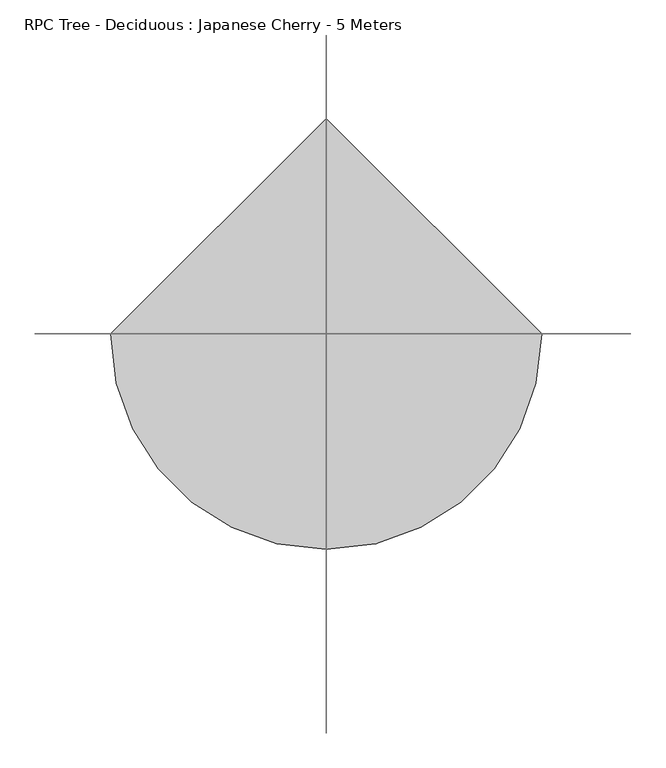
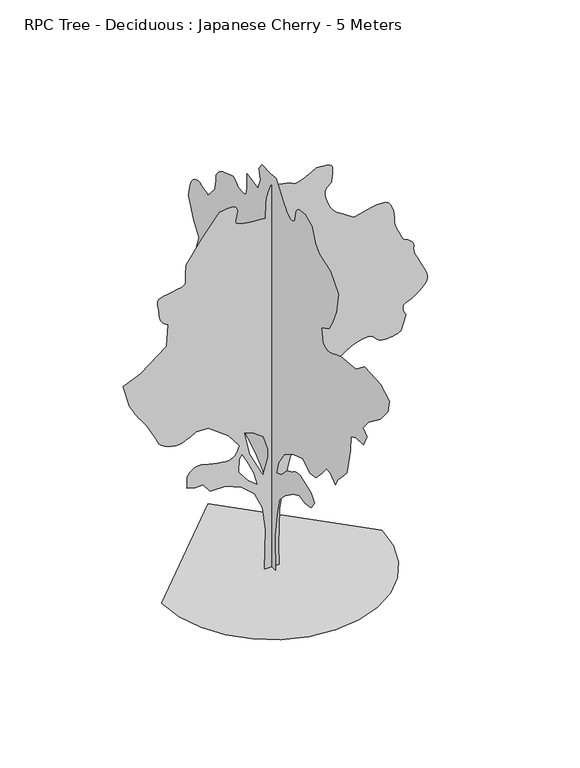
"""IFC4 building model written with IfcOpenShell, lengths in millimetres: geographic element geometry, RPC Tree - Deciduous : Japanese Cherry - 5 Meters."""

from ifc_helpers import new_model, si_unit, origin, place, context, project, spatial, triangles, source, transform, mapped, element, save


def rpc_tree_deciduous_japanese_cherry_5_meters_cd988bd5(model_context):
    return source(origin(), model_context, "Body", "Tessellation", [
        triangles([(-0.0030652, 82.8583963, 0.0065111), (-0.0030652, -80.1047853, 0.0065111), (-0.0030652, -65.2900509, 437.0420008), (-0.0030652, -109.734254, 725.931126), (-0.0030652, -161.5862489, 948.1535357), (-0.0030652, -280.1057769, 1074.0786255), (-0.0030652, -457.8809177, 1200.0065495), (-0.0030652, -576.400464, 1251.8565823), (-0.0030652, -694.9200102, 1229.6342468), (-0.0030652, -820.8451, 1251.8565823), (-0.0030652, -887.5118156, 1348.1539021), (-0.0030652, -820.8451, 1437.0428078), (-0.0030652, -583.8088054, 1518.5234447), (-0.0030652, -563.2059932, 1516.8623543), (-0.0030652, -542.7976459, 1514.745623), (-0.0030652, -522.7781919, 1511.7206623), (-0.0030652, -503.34206, 1507.3373543), (-0.0030652, -484.6837149, 1501.1400581), (-0.0030652, -466.9948236, 1492.6734238), (-0.0030652, -450.4753741, 1481.4873333), (-0.0030652, -433.9531268, 1469.4373421), (-0.0030652, -416.2669971, 1458.5512333), (-0.0030652, -397.6086519, 1448.640065), (-0.0030652, -378.17252, 1439.5039948), (-0.0030652, -358.1530661, 1430.9539352), (-0.0030652, -337.7447187, 1422.790044), (-0.0030652, -317.1419065, 1414.8206177), (-0.0030652, -206.0304474, 1296.3011078), (-0.0030652, -94.9195242, 1251.8565823), (-0.0030652, -139.3640043, 1407.4122036), (-0.0030652, -265.2896573, 1592.5984291), (-0.0030652, -443.0670327, 1703.7096703), (-0.0030652, -650.4754847, 1770.3763859), (-0.0030652, -798.6228373, 1674.0790661), (-0.0030652, -917.1424198, 1688.8957489), (-0.0030652, -1043.0675097, 1822.2264187), (-0.0030652, -1139.3648294, 1940.7459286), (-0.0030652, -1228.2510464, 1933.3376598), (-0.0030652, -1324.5482208, 1844.4515156), (-0.0030652, -1383.8066677, 1948.1543427), (-0.0030652, -1450.4733833, 2022.2265656), (-0.0030652, -1568.9928932, 2148.1544895), (-0.0030652, -1643.0652615, 2481.4880676), (-0.0030652, -1650.4735302, 2659.2658791), (-0.0030652, -1754.1791187, 2703.7076431), (-0.0030652, -1917.1403927, 2718.5244713), (-0.0030652, -1983.8071083, 2859.2522186), (-0.0030652, -1902.3264713, 2925.9190796), (-0.0030652, -2013.4377125, 3059.2525108), (-0.0030652, -2265.2878922, 3251.8637192), (-0.0030652, -2428.2519276, 3444.4473129), (-0.0030652, -2457.8796249, 3600.0029343), (-0.0030652, -2272.6963062, 3703.697477), (-0.0030652, -1931.954314, 3718.5308739), (-0.0030652, -1761.5847713, 3585.1974426), (-0.0030652, -1435.659462, 3548.1418556), (-0.0030652, -1391.3871643, 3530.780706), (-0.0030652, -1348.1539021, 3514.002951), (-0.0030652, -1306.9899902, 3498.3916946), (-0.0030652, -1268.9398418, 3484.5306221), (-0.0030652, -1235.0343533, 3473.0028374), (-0.0030652, -1206.3120512, 3464.3917351), (-0.0030652, -1183.8065208, 3459.2528046), (-0.0030652, -1163.6592768, 3458.9749146), (-0.0030652, -1142.3425547, 3463.3638908), (-0.0030652, -1121.4175964, 3470.7250694), (-0.0030652, -1102.4342348, 3479.3916916), (-0.0030652, -1086.9508776, 3487.669384), (-0.0030652, -1076.5203369, 3493.8637733), (-0.0030652, -1072.6952797, 3496.3083916), (-0.0030652, -1035.6591682, 3674.086203), (-0.0030652, -1191.2148623, 3755.5585556), (-0.0030652, -1265.2899193, 3874.0864952), (-0.0030652, -1346.7705563, 4066.6697983), (-0.0030652, -1391.2149364, 4311.1144707), (-0.0030652, -1220.8453938, 4503.6980644), (-0.0030652, -998.6230568, 4585.1980316), (-0.0030652, -909.7340784, 4666.6703842), (-0.0030652, -843.0673628, 4844.4481956), (-0.0030652, -687.5116688, 4903.6983582), (-0.0030652, -662.1783314, 4903.5873184), (-0.0030652, -637.2366125, 4902.8373642), (-0.0030652, -613.069919, 4900.7816757), (-0.0030652, -590.0699058, 4896.8092438), (-0.0030652, -568.6254662, 4890.1986008), (-0.0030652, -549.1254573, 4880.392804), (-0.0030652, -531.9559748, 4866.6706764), (-0.0030652, -518.0254297, 4849.5039917), (-0.0030652, -507.5948527, 4830.0037285), (-0.0030652, -500.0809582, 4808.5593979), (-0.0030652, -494.8976263, 4785.5593483), (-0.0030652, -491.4642966, 4761.3928001), (-0.0030652, -489.1948494, 4736.4481018), (-0.0030652, -487.5114856, 4711.1147644), (-0.0030652, -474.7281452, 4697.0037071), (-0.0030652, -461.4225984, 4684.0036285), (-0.0030652, -447.0836843, 4673.2260887), (-0.0030652, -431.189233, 4665.7259651), (-0.0030652, -413.2225608, 4662.6427231), (-0.0030652, -392.6614248, 4665.0591454), (-0.0030652, -368.9919757, 4674.0870827), (-0.0030652, -345.5391558, 4687.198201), (-0.0030652, -325.5863766, 4701.1147934), (-0.0030652, -308.547482, 4715.6703003), (-0.0030652, -293.839132, 4730.7536819), (-0.0030652, -280.8807841, 4746.1983788), (-0.0030652, -269.0904973, 4761.9203842), (-0.0030652, -257.8821516, 4777.7816254), (-0.0030652, -154.1787432, 4918.5317551), (-0.0030652, -87.5120185, 5000.0041077), (-0.0030652, 23.5992409, 4992.5871185), (-0.0030652, 201.3768252, 5000.0041077), (-0.0030652, 268.0432683, 4911.1147659), (-0.0030652, 238.4138087, 4785.1983238), (-0.0030652, 290.2668936, 4644.4481941), (-0.0030652, 519.894865, 4688.8925743), (-0.0030652, 519.894865, 4525.9202545), (-0.0030652, 521.6004295, 4500.6979568), (-0.0030652, 524.0198676, 4476.3369438), (-0.0030652, 527.8643277, 4453.8092491), (-0.0030652, 533.8476471, 4434.0313866), (-0.0030652, 542.6782127, 4417.8367355), (-0.0030652, 555.0754575, 4406.1979111), (-0.0030652, 571.7476956, 4400.0035217), (-0.0030652, 590.7949342, 4397.6978485), (-0.0030652, 609.8421364, 4396.9478943), (-0.0030652, 628.8893749, 4397.475769), (-0.0030652, 647.9366135, 4399.0591026), (-0.0030652, 666.983852, 4401.4202957), (-0.0030652, 686.033852, 4404.2811676), (-0.0030652, 705.0810905, 4407.4202202), (-0.0030652, 722.5505911, 4424.6979446), (-0.0030652, 740.08673, 4441.03125), (-0.0030652, 757.7533842, 4455.4201973), (-0.0030652, 775.6117418, 4466.8924622), (-0.0030652, 793.7312027, 4474.4757202), (-0.0030652, 812.1756437, 4477.1979378), (-0.0030652, 831.0062531, 4474.0867905), (-0.0030652, 1031.0063999, 4407.4202202), (-0.0030652, 1059.3841736, 4388.3091774), (-0.0030652, 1086.5953033, 4368.8089142), (-0.0030652, 1111.4731453, 4348.5313728), (-0.0030652, 1132.8536716, 4327.0867516), (-0.0030652, 1149.5676224, 4304.086702), (-0.0030652, 1160.450897, 4279.1422943), (-0.0030652, 1164.3398312, 4251.8645988), (-0.0030652, 1165.2037319, 4223.9200836), (-0.0030652, 1167.6231337, 4197.1699722), (-0.0030652, 1171.3370785, 4171.3921852), (-0.0030652, 1176.0870792, 4146.3922577), (-0.0030652, 1181.6148668, 4121.9478195), (-0.0030652, 1187.6620268, 4097.9199257), (-0.0030652, 1193.9676012, 4074.0864967), (-0.0030652, 1334.7093739, 3918.5308754), (-0.0030652, 1377.5122845, 3937.2808937), (-0.0030652, 1419.992831, 3954.3641533), (-0.0030652, 1461.8234173, 3968.0865715), (-0.0030652, 1502.6818245, 3976.7531937), (-0.0030652, 1542.2456886, 3978.6699371), (-0.0030652, 1580.1901749, 3972.1697525), (-0.0030652, 1616.1901577, 3955.5588478), (-0.0030652, 1647.4401398, 3929.8921005), (-0.0030652, 1672.0819496, 3897.975444), (-0.0030652, 1691.2152294, 3860.8919518), (-0.0030652, 1705.9429642, 3819.6697586), (-0.0030652, 1717.3679935, 3775.3364182), (-0.0030652, 1726.5902504, 3728.9197746), (-0.0030652, 1734.7096676, 3681.4752869), (-0.0030652, 1638.4124931, 3429.6415306), (-0.0030652, 1519.8955994, 3266.6692108), (-0.0030652, 1616.1901577, 3000.0023483), (-0.0030652, 1527.301252, 2859.2522186), (-0.0030652, 1491.0206177, 2846.4745102), (-0.0030652, 1456.1012375, 2833.168927), (-0.0030652, 1423.9011681, 2818.8354996), (-0.0030652, 1395.7816635, 2802.9466438), (-0.0030652, 1373.1065941, 2784.974485), (-0.0030652, 1357.2344524, 2764.4161469), (-0.0030652, 1349.5232952, 2740.7466614), (-0.0030652, 1346.998304, 2715.5659309), (-0.0030652, 1345.6371952, 2690.7715141), (-0.0030652, 1345.2482655, 2666.3049843), (-0.0030652, 1345.6371952, 2642.0965782), (-0.0030652, 1346.6093742, 2618.0797302), (-0.0030652, 1347.970483, 2594.196595), (-0.0030652, 1349.5232952, 2570.3742119), (-0.0030652, 1319.8954525, 2451.8576088), (-0.0030652, 1112.4870369, 2474.0797989), (-0.0030652, 1095.2536411, 2439.3104095), (-0.0030652, 1079.3814268, 2405.4463428), (-0.0030652, 1066.2285959, 2373.3991711), (-0.0030652, 1057.159164, 2344.07131), (-0.0030652, 1053.5314058, 2318.3740414), (-0.0030652, 1056.7064301, 2297.2074554), (-0.0030652, 1068.0425114, 2281.4879208), (-0.0030652, 1086.420314, 2268.4435135), (-0.0030652, 1108.9453199, 2255.1406918), (-0.0030652, 1134.3203699, 2242.2267998), (-0.0030652, 1161.2509209, 2230.3490364), (-0.0030652, 1188.4398136, 2220.1546005), (-0.0030652, 1214.5926504, 2212.2934525), (-0.0030652, 1238.4120541, 2207.4129364), (-0.0030652, 1259.9871906, 2203.1573822), (-0.0030652, 1280.3955379, 2196.9600861), (-0.0030652, 1299.8315609, 2189.143412), (-0.0030652, 1318.490015, 2180.0295788), (-0.0030652, 1336.5676907, 2169.9434212), (-0.0030652, 1354.2538204, 2159.2100647), (-0.0030652, 1371.7454853, 2148.1544895), (-0.0030652, 1542.1179348, 2237.0433952), (-0.0030652, 1591.0957592, 2249.5462658), (-0.0030652, 1638.7152363, 2260.8851086), (-0.0030652, 1683.6124958, 2269.8906635), (-0.0030652, 1724.4291904, 2275.3962868), (-0.0030652, 1759.8042114, 2276.2379505), (-0.0030652, 1788.37645, 2271.2517723), (-0.0030652, 1808.7820358, 2259.2657307), (-0.0030652, 1822.2820839, 2241.8795826), (-0.0030652, 1831.5014339, 2221.7739784), (-0.0030652, 1837.1598095, 2199.4017975), (-0.0030652, 1839.9680683, 2175.212867), (-0.0030652, 1840.6376495, 2149.6655891), (-0.0030652, 1839.8820271, 2123.2100819), (-0.0030652, 1838.41264, 2096.3016953), (-0.0030652, 1812.9514034, 2069.5432995), (-0.0030652, 1787.1013824, 2044.1489193), (-0.0030652, 1760.4736473, 2021.4710884), (-0.0030652, 1732.6791229, 2002.8765839), (-0.0030652, 1703.3291702, 1989.7266598), (-0.0030652, 1672.0374756, 1983.3766113), (-0.0030652, 1638.4124931, 1985.1904541), (-0.0030652, 1602.8012947, 1993.0071281), (-0.0030652, 1566.6706512, 2002.3821373), (-0.0030652, 1531.3178673, 2011.23494), (-0.0030652, 1498.040102, 2017.4988018), (-0.0030652, 1468.1289917, 2019.096088), (-0.0030652, 1442.884457, 2013.9571575), (-0.0030652, 1423.5984249, 2000.0043755), (-0.0030652, 1409.0205357, 1982.0377396), (-0.0030652, 1396.7760796, 1966.0127003), (-0.0030652, 1386.4733654, 1951.6099457), (-0.0030652, 1377.728841, 1938.5015888), (-0.0030652, 1370.1483444, 1926.3626495), (-0.0030652, 1363.345562, 1914.8738159), (-0.0030652, 1356.9317093, 1903.7098171), (-0.0030652, 1382.1760986, 1900.3626377), (-0.0030652, 1406.51502, 1895.9793297), (-0.0030652, 1429.0400986, 1889.521003), (-0.0030652, 1448.8428143, 1879.9542904), (-0.0030652, 1465.0178444, 1866.2404472), (-0.0030652, 1476.6595757, 1847.3431995), (-0.0030652, 1482.8567265, 1822.2264187), (-0.0030652, 1485.3844791, 1792.7930408), (-0.0030652, 1486.7455879, 1761.8014732), (-0.0030652, 1487.1345177, 1729.5152172), (-0.0030652, 1486.7455879, 1696.1929779), (-0.0030652, 1485.7734089, 1662.0930244), (-0.0030652, 1484.4123001, 1627.4762421), (-0.0030652, 1482.8567265, 1592.5984291), (-0.0030652, 1444.8067234, 1564.2428925), (-0.0030652, 1407.012228, 1537.1817535), (-0.0030652, 1369.7371777, 1512.7150784), (-0.0030652, 1333.2399868, 1492.1345032), (-0.0030652, 1297.7815407, 1476.7373325), (-0.0030652, 1263.6148762, 1467.8178188), (-0.0030652, 1231.0065468, 1466.6734119), (-0.0030652, 1198.3953833, 1470.7095028), (-0.0030652, 1164.2314802, 1476.3039288), (-0.0030652, 1128.7703453, 1483.1928978), (-0.0030652, 1092.2730818, 1491.1178501), (-0.0030652, 1054.9980314, 1499.8234234), (-0.0030652, 1017.2063702, 1509.0429188), (-0.0030652, 979.153533, 1518.5234447), (-0.0030652, 756.931196, 1466.6734119), (-0.0030652, 497.6726023, 1333.3399807), (-0.0030652, 349.525286, 1251.8565823), (-0.0030652, 179.1545806, 1111.1175711), (-0.0030652, 75.4508951, 896.3035028), (-0.0030652, 45.8214264, 592.5976948), (-0.0030652, 75.4508951, 288.8946845), (87.7189553, 0.000279, 0.0), (-90.0586835, 0.000279, 0.0), (-75.2439492, 0.0002442, 503.7031935), (-112.2806465, 0.0002209, 792.5923187), (-208.5771124, 0.0002093, 999.9980455), (-364.133624, 0.0002093, 1140.7398182), (-556.7254294, 0.0001977, 1222.2204552), (-741.9089298, 0.0001977, 1222.2204552), (-830.8006697, 0.0001977, 1333.331551), (-927.0951553, 0.0001977, 1333.331551), (-1023.3924751, 0.0001977, 1355.5538864), (-1023.3924751, 0.000186, 1496.2955864), (-1004.2147213, 0.000186, 1521.4539345), (-984.259108, 0.000186, 1545.1873695), (-962.7507551, 0.0001744, 1566.0706879), (-938.9091145, 0.0001744, 1582.6789764), (-911.9562538, 0.0001744, 1593.5845608), (-881.1173658, 0.0001744, 1597.365144), (-845.614591, 0.0001744, 1592.5929062), (-803.458952, 0.0001744, 1581.9234993), (-755.0839251, 0.0001744, 1569.829034), (-703.3394817, 0.000186, 1557.606815), (-651.0782822, 0.000186, 1546.5484783), (-601.147718, 0.000186, 1537.9539448), (-556.4004493, 0.000186, 1533.1151413), (-519.6865202, 0.000186, 1533.3318432), (-490.5337212, 0.000186, 1539.9623978), (-466.044809, 0.000186, 1552.8123402), (-445.4420331, 0.0001744, 1570.8456871), (-427.9475704, 0.0001744, 1593.0235485), (-412.7892297, 0.0001744, 1618.3124119), (-399.1836648, 0.0001744, 1645.6735325), (-386.3558504, 0.0001744, 1674.0735432), (-519.6865202, 0.0001628, 1851.8514999), (-764.1311926, 0.0001512, 2029.6294567), (-912.2813066, 0.0001512, 2037.034964), (-936.1868242, 0.0001512, 2022.7822002), (-960.6757364, 0.0001512, 2008.7239014), (-986.3341267, 0.0001512, 1995.0543869), (-1013.7368872, 0.0001512, 1981.9655056), (-1043.4758423, 0.0001512, 1969.6570999), (-1076.1286457, 0.0001512, 1958.3182571), (-1112.2814535, 0.0001628, 1948.1460583), (-1153.8731735, 0.0001628, 1944.6265057), (-1200.1315418, 0.0001628, 1951.7321766), (-1247.556554, 0.0001512, 1967.3876163), (-1292.6510399, 0.0001512, 1989.5237652), (-1331.9121609, 0.0001512, 2016.0654591), (-1361.8427467, 0.0001512, 2044.9405861), (-1378.9454819, 0.0001512, 2074.0738369), (-1393.8705883, 0.0001512, 2110.3961838), (-1417.603878, 0.0001395, 2158.771138), (-1447.1677711, 0.0001395, 2214.015731), (-1479.5845425, 0.0001395, 2270.9407448), (-1511.8706532, 0.0001395, 2324.3685883), (-1541.0456165, 0.0001279, 2369.1157116), (-1564.1318527, 0.0001279, 2399.9991463), (-1583.6123497, 0.0001279, 2424.5963367), (-1603.8679447, 0.0001279, 2453.4714638), (-1624.7735001, 0.0001279, 2485.9075653), (-1646.195739, 0.0001279, 2521.1937836), (-1668.0069077, 0.0001163, 2558.6214409), (-1690.0791069, 0.0001163, 2597.4713951), (-1712.2792053, 0.0001163, 2637.0355499), (-1793.7626038, 0.0001046, 2918.5299957), (-1578.9457741, 9.3e-05, 3007.4190468), (-1267.8371475, 8.14e-05, 3251.8637192), (-1253.0204647, 5.81e-05, 3518.5026764), (-1275.092664, 5.81e-05, 3534.5304771), (-1296.2566338, 5.81e-05, 3551.3085228), (-1315.6066154, 5.81e-05, 3569.6417061), (-1332.2343796, 5.81e-05, 3590.3084679), (-1345.2344582, 5.81e-05, 3614.0860863), (-1353.7010925, 5.81e-05, 3641.7530022), (-1356.7260532, 5.81e-05, 3674.0585884), (-1359.4037968, 4.65e-05, 3710.4473557), (-1365.4483406, 4.65e-05, 3748.3918419), (-1371.8844303, 4.65e-05, 3785.8363586), (-1375.7288177, 4.65e-05, 3820.6696976), (-1374.0011616, 4.65e-05, 3850.8364609), (-1363.7205391, 4.65e-05, 3874.2530548), (-1341.9093704, 4.65e-05, 3888.8919868), (-1303.7066151, 4.65e-05, 3898.0864838), (-1251.2509506, 3.49e-05, 3907.1696503), (-1192.056526, 3.49e-05, 3916.8641167), (-1133.6398155, 3.49e-05, 3928.0308769), (-1083.5147501, 3.49e-05, 3941.3643654), (-1049.1980947, 3.49e-05, 3957.6976707), (-1038.2063965, 3.49e-05, 3977.7810379), (-1040.51752, 3.49e-05, 4001.9475861), (-1041.2730698, 3.49e-05, 4029.6142113), (-1040.7313877, 3.49e-05, 4060.1978096), (-1039.1564112, 3.49e-05, 4093.0864998), (-1036.8035751, 2.33e-05, 4127.7532791), (-1033.9313667, 2.33e-05, 4163.586557), (-1030.7980551, 2.33e-05, 4200.0032295), (-845.614591, 1.16e-05, 4466.6703827), (-630.8005228, -1.16e-05, 4733.3372452), (-585.0810388, -1.16e-05, 4740.9481178), (-541.2421085, -1.16e-05, 4746.6983482), (-501.1587267, -1.16e-05, 4748.6982262), (-466.7142448, -1.16e-05, 4745.0315895), (-439.7836939, -1.16e-05, 4733.8648293), (-422.247555, -1.16e-05, 4713.3093979), (-415.9836568, 0.0, 4681.4758759), (-419.0725671, 0.0, 4645.6146927), (-426.178129, 0.0, 4614.0038315), (-434.0614414, 0.0, 4586.448246), (-439.4809144, 0.0, 4562.614817), (-439.2003356, 0.0, 4542.2814651), (-429.9781151, 0.0, 4525.1982056), (-408.5781132, 0.0, 4511.1147629), (-376.1197383, 0.0, 4499.6980179), (-336.661391, 0.0, 4490.642466), (-291.375238, 1.16e-05, 4483.5036575), (-241.4246351, 1.16e-05, 4477.947892), (-187.9745909, 1.16e-05, 4473.5313011), (-132.1923308, 1.16e-05, 4469.8925697), (-75.2439492, 1.16e-05, 4466.6703827), (-67.8361664, 0.0, 4666.6703842), (-66.1083876, -1.16e-05, 4695.0314438), (-61.2708831, -1.16e-05, 4722.975959), (-53.8419897, -1.16e-05, 4750.6149696), (-44.3397581, -1.16e-05, 4778.0037048), (-33.2825274, -1.16e-05, 4805.1982658), (-21.1889615, -1.16e-05, 4832.2538818), (-8.5769514, -1.16e-05, 4859.253978), (41.9792009, -1.16e-05, 4849.6984566), (91.1100728, -1.16e-05, 4840.0316048), (137.3901059, -1.16e-05, 4830.1150589), (179.3943189, -1.16e-05, 4819.781678), (215.6971175, -1.16e-05, 4808.9483276), (244.8732436, -1.16e-05, 4797.4481575), (265.4971483, -1.16e-05, 4785.1704185), (292.3418941, -1.16e-05, 4781.587207), (336.0280357, -1.16e-05, 4792.7815819), (388.916995, -1.16e-05, 4813.5593834), (443.3614552, -1.16e-05, 4838.7537758), (491.7142814, -1.16e-05, 4863.1426941), (526.3309911, -2.33e-05, 4881.5874985), (539.5698632, -2.33e-05, 4888.8928665), (550.2393428, -2.33e-05, 4889.114946), (577.753252, -2.33e-05, 4888.8097321), (615.3726854, -2.33e-05, 4886.559288), (656.3616079, -2.33e-05, 4880.948584), (693.981114, -1.16e-05, 4870.531778), (721.4949869, -1.16e-05, 4853.8926773), (732.1644665, -1.16e-05, 4829.6150894), (731.7311354, -1.16e-05, 4801.4761093), (730.5227789, -1.16e-05, 4774.1149887), (728.6644621, -1.16e-05, 4747.4203972), (726.2894617, -1.16e-05, 4721.2260658), (723.5256042, -1.16e-05, 4695.4203735), (720.5005709, 0.0, 4669.8649567), (717.3477837, 0.0, 4644.4481941), (698.472773, 0.0, 4630.003727), (680.6366524, 0.0, 4614.7537857), (664.8699549, 0.0, 4597.7815659), (652.2144047, 0.0, 4578.3092079), (643.7060577, 0.0, 4555.4760086), (640.3810427, 0.0, 4528.4203926), (643.2754881, 0.0, 4496.281366), (651.3505039, 1.16e-05, 4460.6701675), (662.5366671, 1.16e-05, 4424.39244), (676.3172213, 1.16e-05, 4388.614682), (692.1671986, 1.16e-05, 4354.5312973), (709.5728222, 1.16e-05, 4323.3090752), (728.0172632, 1.16e-05, 4296.0868996), (746.9783878, 2.33e-05, 4274.0588837), (769.2645275, 2.33e-05, 4253.9479019), (797.3839594, 2.33e-05, 4231.8643661), (830.3589815, 2.33e-05, 4208.1701729), (867.2256992, 2.33e-05, 4183.19786), (907.0035038, 2.33e-05, 4157.2256081), (948.7257391, 2.33e-05, 4130.6420563), (991.4229876, 2.33e-05, 4103.6977707), (1065.711985, 2.33e-05, 4124.0311226), (1138.1231174, 2.33e-05, 4142.4756363), (1206.7759764, 2.33e-05, 4157.1421829), (1269.7954582, 2.33e-05, 4166.1977348), (1325.2955589, 2.33e-05, 4167.7255486), (1371.4039364, 2.33e-05, 4159.8644005), (1406.2372753, 2.33e-05, 4140.7254524), (1431.3316738, 2.33e-05, 4109.61427), (1450.0761692, 3.49e-05, 4069.5588661), (1463.3789909, 3.49e-05, 4024.3087212), (1472.1483685, 3.49e-05, 3977.6420929), (1477.287299, 3.49e-05, 3933.3087524), (1479.7067734, 4.65e-05, 3895.0587616), (1480.3122597, 4.65e-05, 3866.6697968), (1486.0566765, 4.65e-05, 3836.3919937), (1500.8705978, 4.65e-05, 3794.0585312), (1521.1261929, 4.65e-05, 3745.7806641), (1543.1983921, 5.81e-05, 3697.6141273), (1563.4567486, 5.81e-05, 3655.6695946), (1578.2706699, 5.81e-05, 3626.030706), (1584.0150867, 5.81e-05, 3614.8084259), (1591.7679565, 5.81e-05, 3611.7251839), (1611.5706722, 5.81e-05, 3602.808577), (1638.2430267, 5.81e-05, 3588.5861893), (1666.5985634, 5.81e-05, 3569.5582809), (1691.4541683, 5.81e-05, 3546.2527267), (1707.6291985, 5.81e-05, 3519.1974014), (1709.9402493, 6.98e-05, 3488.8916931), (1707.0458038, 6.98e-05, 3457.8915504), (1710.373653, 6.98e-05, 3427.8082123), (1718.882, 6.98e-05, 3397.7248741), (1731.5374775, 6.98e-05, 3366.7526367), (1747.3013409, 6.98e-05, 3333.947081), (1765.1403683, 8.14e-05, 3298.4193077), (1784.015379, 8.14e-05, 3259.2525124), (1805.5681332, 8.14e-05, 3216.7803955), (1829.4541752, 8.14e-05, 3172.4746696), (1851.6542736, 8.14e-05, 3127.2803352), (1868.1515224, 9.3e-05, 3082.0857101), (1874.9348293, 9.3e-05, 3037.780275), (1867.9792946, 9.3e-05, 2995.3078674), (1843.2736805, 9.3e-05, 2955.5579681), (1809.9959152, 0.0001046, 2920.9190941), (1779.3069454, 0.0001046, 2892.502224), (1750.1736946, 0.0001046, 2869.2521896), (1721.5597435, 0.0001046, 2850.1690521), (1692.4263474, 0.0001046, 2834.1967712), (1661.7402843, 0.0001046, 2820.2801788), (1628.4596123, 0.0001046, 2807.4190453), (1600.2345909, 0.0001046, 2792.5577431), (1584.0567993, 0.0001046, 2773.8022018), (1577.9234528, 0.0001046, 2751.8189507), (1579.8262436, 0.0001163, 2727.2410904), (1587.7513412, 0.0001163, 2700.7214882), (1599.6929089, 0.0001163, 2672.9077789), (1613.6456909, 0.0001163, 2644.4438187), (1554.3846279, 0.0001279, 2459.2574478), (1533.5456383, 0.0001279, 2449.8213959), (1511.473439, 0.0001279, 2440.9018822), (1486.9400528, 0.0001279, 2433.0186424), (1458.7150314, 0.0001279, 2426.690831), (1425.56502, 0.0001279, 2422.4380383), (1386.259425, 0.0001279, 2420.7741863), (1339.5705597, 0.0001279, 2422.2213364), (1297.6315498, 0.0001279, 2431.8297615), (1268.9093204, 0.0001279, 2451.0297523), (1246.6648933, 0.0001279, 2474.8937027), (1224.1620518, 0.0001279, 2498.4963318), (1194.6620356, 0.0001279, 2516.9187538), (1151.4259392, 0.0001279, 2525.2324905), (1087.7175459, 0.0001279, 2518.51604), (1014.0563444, 0.0001279, 2497.5908638), (946.4813267, 0.0001279, 2468.1130119), (886.5535166, 0.0001279, 2432.4130108), (835.8228922, 0.0001279, 2392.8296711), (795.8506227, 0.0001279, 2351.6879963), (768.1839249, 0.0001395, 2311.3267971), (754.3867292, 0.0001395, 2274.0739838), (754.0839134, 0.0001395, 2240.8794983), (764.6645176, 0.0001395, 2210.7961601), (784.3173151, 0.0001395, 2183.3045242), (811.225629, 0.0001395, 2157.887907), (843.5756893, 0.0001512, 2134.0239567), (879.5562693, 0.0001512, 2111.1961349), (917.3479305, 0.0001512, 2088.8877583), (939.3979654, 0.0001512, 2074.5044792), (960.4118717, 0.0001512, 2059.5378056), (979.3507593, 0.0001512, 2043.4072495), (995.1813337, 0.0001512, 2025.5266548), (1006.8647049, 0.0001512, 2005.3127724), (1013.3646715, 0.0001512, 1982.1822075), (1013.6452503, 0.0001512, 1955.554327), (1010.686928, 0.0001628, 1923.0959885), (1008.1174627, 0.0001628, 1883.6404026), (1005.8702162, 0.0001628, 1838.3542133), (1003.8841455, 0.0001628, 1788.4014484), (1002.0897057, 0.0001744, 1734.951368), (1000.4285425, 0.0001744, 1679.1707611), (998.8285675, 0.0001744, 1622.2207489), (960.6924505, 0.0001744, 1593.9734905), (922.2951576, 0.0001744, 1567.6707355), (883.3784924, 0.000186, 1545.2540806), (843.6840403, 0.000186, 1528.6678837), (802.956221, 0.000186, 1519.8567936), (760.9284084, 0.000186, 1520.7622616), (717.3477837, 0.000186, 1533.3318432), (673.5532911, 0.000186, 1550.0040813), (630.9227537, 0.000186, 1562.4012897), (589.2615975, 0.0001744, 1571.2346169), (548.3809896, 0.0001744, 1577.2152111), (508.08374, 0.0001744, 1581.0595985), (468.1753839, 0.0001744, 1583.479073), (428.4586584, 0.0001744, 1585.1846375), (302.5335686, 0.000186, 1503.7040005), (221.0526772, 0.0001977, 1318.517775), (139.5709411, 0.0002093, 1007.4063869), (95.1267426, 0.0002325, 703.7033403), (80.3117312, 0.0002558, 259.2591024), (-104.8734133, 9.3e-05, 1199.9981924), (-45.6142034, 8.14e-05, 1407.4066807), (-45.6142034, 6.98e-05, 1511.1095078), (-97.4656351, 5.81e-05, 1688.8874645), (-230.7987938, 5.81e-05, 1785.1847843), (-334.5030561, 5.81e-05, 1822.2208958), (-267.8363224, 6.98e-05, 1525.9261906), (-171.5395839, 6.98e-05, 1103.7036341), (-215.9840549, 6.98e-05, 1266.6648354), (-297.4669084, 5.81e-05, 1444.4427921), (-356.7252826, 4.65e-05, 1555.5540333), (-393.7614304, 4.65e-05, 1503.7040005), (-401.1697718, 5.81e-05, 1340.7399651), (-290.058567, 6.98e-05, 1199.9981924), (-1326.4622028, 0.0, 0.0050228), (-1291.3954479, -303.9363536, 0.0050228), (-1191.523201, -583.056017, 0.0050228), (-1034.8452644, -829.3562084, 0.0050228), (-829.3562084, -1034.8452644, 0.0050228), (-583.056017, -1191.523201, 0.0050228), (-303.9363536, -1291.3954479, 0.0050228), (5.8e-05, -1326.4622028, 0.0050228), (303.9363536, -1291.3954479, 0.0050228), (583.056017, -1191.523201, 0.0050228), (829.3562084, -1034.8452644, 0.0050228), (1034.8452644, -829.3562084, 0.0050228), (1191.523201, -583.056017, 0.0050228), (1291.3954479, -303.9363536, 0.0050228), (1326.4622028, 0.0001163, 0.0050228), (-0.0001739, 1326.4622028, 0.0050228)], [[38, 39, 40], [115, 116, 117], [1, 2, 3], [280, 1, 3], [279, 280, 3], [279, 3, 4], [278, 279, 4], [278, 4, 5], [186, 187, 188], [277, 278, 5], [46, 47, 48], [45, 46, 48], [277, 5, 6], [185, 186, 188], [10, 11, 12], [9, 10, 12], [9, 12, 13], [8, 9, 13], [8, 13, 14], [8, 14, 15], [8, 15, 16], [8, 16, 17], [8, 17, 18], [8, 18, 19], [8, 19, 20], [8, 20, 21], [7, 8, 21], [7, 21, 22], [7, 22, 23], [7, 23, 24], [7, 24, 25], [7, 25, 26], [6, 7, 26], [6, 26, 27], [6, 27, 28], [277, 6, 28], [277, 28, 29], [51, 52, 53], [50, 51, 53], [50, 53, 54], [50, 54, 55], [49, 50, 55], [49, 55, 56], [48, 49, 56], [48, 56, 57], [45, 48, 57], [44, 45, 57], [44, 57, 58], [44, 58, 59], [44, 59, 60], [44, 60, 61], [44, 61, 62], [44, 62, 63], [276, 277, 29], [276, 29, 30], [184, 185, 188], [183, 184, 188], [44, 63, 64], [115, 117, 118], [111, 112, 113], [111, 113, 114], [182, 183, 188], [109, 110, 111], [109, 111, 114], [108, 109, 114], [108, 114, 115], [107, 108, 115], [106, 107, 115], [105, 106, 115], [104, 105, 115], [115, 118, 119], [170, 171, 172], [170, 172, 173], [170, 173, 174], [170, 174, 175], [74, 75, 76], [74, 76, 77], [73, 74, 77], [72, 73, 77], [71, 72, 77], [258, 259, 260], [181, 182, 188], [78, 79, 80], [170, 175, 176], [103, 104, 115], [78, 80, 81], [44, 64, 65], [275, 276, 30], [275, 30, 31], [274, 275, 31], [78, 81, 82], [78, 82, 83], [78, 83, 84], [78, 84, 85], [78, 85, 86], [78, 86, 87], [78, 87, 88], [78, 88, 89], [78, 89, 90], [78, 90, 91], [78, 91, 92], [78, 92, 93], [78, 93, 94], [78, 94, 95], [78, 95, 96], [71, 77, 78], [71, 78, 96], [71, 96, 97], [71, 97, 98], [71, 98, 99], [71, 99, 100], [115, 119, 120], [180, 181, 188], [38, 40, 41], [223, 224, 225], [33, 34, 35], [33, 35, 36], [33, 36, 37], [102, 103, 115], [179, 180, 188], [44, 65, 66], [170, 176, 177], [71, 100, 101], [43, 44, 66], [42, 43, 66], [41, 42, 66], [38, 41, 66], [37, 38, 66], [33, 37, 66], [33, 66, 67], [33, 67, 68], [33, 68, 69], [33, 69, 70], [32, 33, 70], [31, 32, 70], [274, 31, 70], [273, 274, 70], [273, 70, 71], [273, 71, 101], [273, 101, 102], [273, 102, 115], [273, 115, 120], [273, 120, 121], [273, 121, 122], [273, 122, 123], [273, 123, 124], [273, 124, 125], [273, 125, 126], [273, 126, 127], [273, 127, 128], [273, 128, 129], [273, 129, 130], [273, 130, 131], [272, 273, 131], [271, 272, 131], [270, 271, 131], [269, 270, 131], [268, 269, 131], [268, 131, 132], [268, 132, 133], [268, 133, 134], [167, 168, 169], [257, 258, 260], [257, 260, 261], [256, 257, 261], [256, 261, 262], [255, 256, 262], [255, 262, 263], [254, 255, 263], [254, 263, 264], [254, 264, 265], [254, 265, 266], [254, 266, 267], [254, 267, 268], [253, 254, 268], [252, 253, 268], [251, 252, 268], [250, 251, 268], [249, 250, 268], [248, 249, 268], [247, 248, 268], [246, 247, 268], [245, 246, 268], [166, 167, 169], [165, 166, 169], [164, 165, 169], [163, 164, 169], [162, 163, 169], [161, 162, 169], [160, 161, 169], [159, 160, 169], [158, 159, 169], [157, 158, 169], [156, 157, 169], [155, 156, 169], [154, 155, 169], [154, 169, 170], [154, 170, 177], [153, 154, 177], [153, 177, 178], [153, 178, 179], [153, 179, 188], [222, 223, 225], [222, 225, 226], [221, 222, 226], [220, 221, 226], [219, 220, 226], [218, 219, 226], [217, 218, 226], [216, 217, 226], [215, 216, 226], [214, 215, 226], [213, 214, 226], [212, 213, 226], [212, 226, 227], [212, 227, 228], [212, 228, 229], [212, 229, 230], [212, 230, 231], [211, 212, 231], [211, 231, 232], [211, 232, 233], [210, 211, 233], [209, 210, 233], [209, 233, 234], [209, 234, 235], [209, 235, 236], [209, 236, 237], [209, 237, 238], [209, 238, 239], [209, 239, 240], [208, 209, 240], [208, 240, 241], [207, 208, 241], [206, 207, 241], [206, 241, 242], [205, 206, 242], [204, 205, 242], [204, 242, 243], [203, 204, 243], [202, 203, 243], [202, 243, 244], [201, 202, 244], [201, 244, 245], [201, 245, 268], [200, 201, 268], [199, 200, 268], [198, 199, 268], [197, 198, 268], [196, 197, 268], [195, 196, 268], [194, 195, 268], [153, 188, 189], [153, 189, 190], [152, 153, 190], [152, 190, 191], [151, 152, 191], [136, 137, 138], [135, 136, 138], [135, 138, 139], [134, 135, 139], [134, 139, 140], [134, 140, 141], [134, 141, 142], [134, 142, 143], [134, 143, 144], [134, 144, 145], [134, 145, 146], [134, 146, 147], [134, 147, 148], [134, 148, 149], [134, 149, 150], [134, 150, 151], [134, 151, 191], [134, 191, 192], [134, 192, 193], [268, 134, 193], [194, 268, 193], [583, 580, 581], [574, 281, 575], [580, 583, 584], [573, 574, 575], [583, 581, 575], [580, 584, 585], [572, 573, 575], [582, 583, 575], [582, 575, 281], [571, 572, 575], [571, 575, 576], [281, 282, 283], [570, 571, 576], [570, 576, 577], [344, 345, 346], [290, 291, 292], [406, 407, 408], [570, 577, 578], [290, 292, 293], [289, 290, 293], [289, 293, 294], [289, 294, 295], [289, 295, 296], [289, 296, 297], [289, 297, 298], [289, 298, 299], [289, 299, 300], [289, 300, 301], [289, 301, 302], [289, 302, 303], [288, 289, 303], [287, 288, 303], [287, 303, 304], [287, 304, 305], [287, 305, 306], [286, 287, 306], [286, 306, 307], [286, 307, 308], [286, 308, 309], [569, 570, 578], [554, 555, 556], [405, 406, 408], [343, 344, 346], [512, 513, 514], [511, 512, 514], [511, 514, 515], [511, 515, 516], [511, 516, 517], [510, 511, 517], [510, 517, 518], [510, 518, 519], [510, 519, 520], [510, 520, 521], [510, 521, 522], [510, 522, 523], [510, 523, 524], [509, 510, 524], [509, 524, 525], [508, 509, 525], [434, 435, 436], [342, 343, 346], [507, 508, 525], [507, 525, 526], [405, 408, 409], [404, 405, 409], [403, 404, 409], [403, 409, 410], [402, 403, 410], [401, 402, 410], [400, 401, 410], [400, 410, 411], [399, 400, 411], [399, 411, 412], [399, 412, 413], [399, 413, 414], [399, 414, 415], [377, 378, 379], [341, 342, 346], [341, 346, 347], [340, 341, 347], [339, 340, 347], [338, 339, 347], [337, 338, 347], [336, 337, 347], [335, 336, 347], [334, 335, 347], [333, 334, 347], [377, 379, 380], [377, 380, 381], [377, 381, 382], [377, 382, 383], [377, 383, 384], [377, 384, 385], [377, 385, 386], [377, 386, 387], [377, 387, 388], [377, 388, 389], [377, 389, 390], [377, 390, 391], [376, 377, 391], [376, 391, 392], [375, 376, 392], [374, 375, 392], [373, 374, 392], [372, 373, 392], [372, 392, 393], [371, 372, 393], [370, 371, 393], [369, 370, 393], [369, 393, 394], [369, 394, 395], [369, 395, 396], [332, 333, 347], [369, 396, 397], [426, 427, 428], [426, 428, 429], [425, 426, 429], [425, 429, 430], [424, 425, 430], [424, 430, 431], [423, 424, 431], [423, 431, 432], [422, 423, 432], [422, 432, 433], [421, 422, 433], [420, 421, 433], [419, 420, 433], [418, 419, 433], [418, 433, 434], [418, 434, 436], [418, 436, 437], [418, 437, 438], [418, 438, 439], [417, 418, 439], [417, 439, 440], [416, 417, 440], [416, 440, 441], [415, 416, 441], [399, 415, 441], [399, 441, 442], [399, 442, 443], [399, 443, 444], [399, 444, 445], [399, 445, 446], [399, 446, 447], [399, 447, 448], [399, 448, 449], [369, 397, 398], [331, 332, 347], [368, 369, 398], [360, 361, 362], [359, 360, 362], [359, 362, 363], [358, 359, 363], [358, 363, 364], [357, 358, 364], [357, 364, 365], [356, 357, 365], [355, 356, 365], [355, 365, 366], [354, 355, 366], [353, 354, 366], [352, 353, 366], [351, 352, 366], [350, 351, 366], [349, 350, 366], [348, 349, 366], [348, 366, 367], [348, 367, 368], [348, 368, 398], [347, 348, 398], [347, 398, 399], [347, 399, 449], [347, 449, 450], [347, 450, 451], [347, 451, 452], [331, 347, 452], [331, 452, 453], [331, 453, 454], [331, 454, 455], [331, 455, 456], [330, 331, 456], [329, 330, 456], [328, 329, 456], [327, 328, 456], [326, 327, 456], [325, 326, 456], [324, 325, 456], [323, 324, 456], [322, 323, 456], [321, 322, 456], [320, 321, 456], [319, 320, 456], [318, 319, 456], [317, 318, 456], [316, 317, 456], [315, 316, 456], [314, 315, 456], [314, 456, 457], [314, 457, 458], [314, 458, 459], [314, 459, 460], [314, 460, 461], [314, 461, 462], [314, 462, 463], [314, 463, 464], [314, 464, 465], [314, 465, 466], [314, 466, 467], [314, 467, 468], [314, 468, 469], [314, 469, 470], [314, 470, 471], [314, 471, 472], [314, 472, 473], [314, 473, 474], [314, 474, 475], [314, 475, 476], [314, 476, 477], [314, 477, 478], [314, 478, 479], [314, 479, 480], [314, 480, 481], [314, 481, 482], [314, 482, 483], [314, 483, 484], [314, 484, 485], [314, 485, 486], [314, 486, 487], [314, 487, 488], [314, 488, 489], [314, 489, 490], [314, 490, 491], [314, 491, 492], [314, 492, 493], [314, 493, 494], [314, 494, 495], [314, 495, 496], [314, 496, 497], [314, 497, 498], [314, 498, 499], [314, 499, 500], [314, 500, 501], [314, 501, 502], [580, 585, 586], [554, 556, 557], [553, 554, 557], [553, 557, 558], [553, 558, 559], [553, 559, 560], [553, 560, 561], [553, 561, 562], [553, 562, 563], [552, 553, 563], [552, 563, 564], [551, 552, 564], [550, 551, 564], [550, 564, 565], [549, 550, 565], [549, 565, 566], [548, 549, 566], [547, 548, 566], [546, 547, 566], [545, 546, 566], [544, 545, 566], [543, 544, 566], [542, 543, 566], [541, 542, 566], [540, 541, 566], [539, 540, 566], [538, 539, 566], [538, 566, 567], [537, 538, 567], [537, 567, 568], [537, 568, 569], [537, 569, 578], [536, 537, 578], [535, 536, 578], [535, 578, 579], [534, 535, 579], [534, 579, 580], [533, 534, 580], [532, 533, 580], [507, 526, 527], [506, 507, 527], [531, 532, 580], [506, 527, 528], [530, 531, 580], [281, 283, 284], [582, 281, 284], [582, 284, 285], [582, 285, 286], [588, 582, 286], [587, 588, 286], [587, 286, 309], [586, 587, 309], [586, 309, 310], [586, 310, 311], [586, 311, 312], [586, 312, 313], [580, 586, 313], [580, 313, 314], [530, 580, 314], [529, 530, 314], [502, 503, 504], [502, 504, 505], [314, 502, 505], [529, 314, 505], [529, 505, 506], [529, 506, 528], [603, 604, 589], [602, 603, 589], [602, 589, 590], [601, 602, 590], [601, 590, 591], [601, 591, 592], [600, 601, 592], [599, 600, 592], [599, 592, 593], [599, 593, 594], [599, 594, 595], [599, 595, 596], [599, 596, 597], [599, 597, 598]], closed=False),
    ])


if __name__ == "__main__":
    model = new_model("IFC4")
    model_context = context("Model", 3, world=origin())
    ifc_project = project(units=[si_unit("LENGTHUNIT", "METRE", prefix="MILLI")], contexts=[model_context])
    site = spatial("IfcSite", under=ifc_project)
    building = spatial("IfcBuilding", under=site)
    placement = place(None, origin())
    rpc_tree_deciduous_japanese_cherry_5_meters_shape = rpc_tree_deciduous_japanese_cherry_5_meters_cd988bd5(model_context)
    element("IfcGeographicElement", 1, ObjectType="RPC Tree - Deciduous : Japanese Cherry - 5 Meters", at=placement, inside=building, context=model_context, shape_type="MappedRepresentation", body=[
        mapped(rpc_tree_deciduous_japanese_cherry_5_meters_shape, transform((0.0, 0.0, 0.0), x_axis=(1.0, 0.0, 0.0), y_axis=(0.0, 1.0, 0.0), z_axis=(0.0, 0.0, 1.0))),
    ])
    save(model, "model.ifc")
